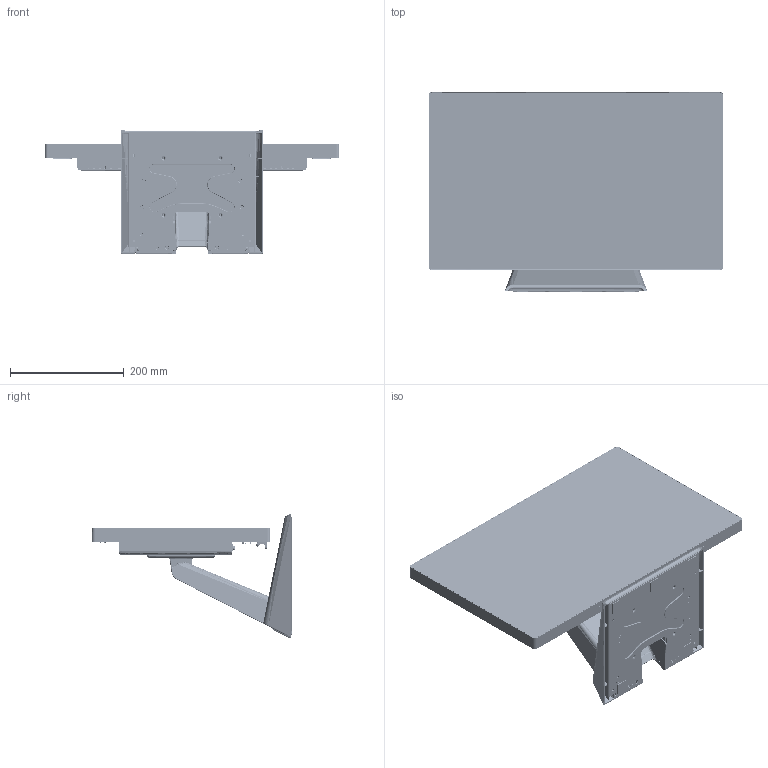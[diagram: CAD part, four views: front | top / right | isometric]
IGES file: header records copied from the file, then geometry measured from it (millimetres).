
Start section: SolidWorks IGES file using analytic representation for surfaces
Global section: file name: C:\Users\jcordisco\Documents\Projects\Monitor\Final\PT2245PW\997-7416-01_A_PT2245PW.IGS; native system: SolidWorks 2019; preprocessor: SolidWorks 2019; author: jcordisco; date: 210726.093630; units: millimetre
Bounding box: 517.44 x 351.66 x 219.02 mm (x, y, z)
Surface area: 1451800.5 mm2 (no closed solid volume)
Topology: 0 solids, 0 shells, 8448 faces, 71728 edges, 71496 vertices
Faces by surface type: bspline 5008, revolution 3440
